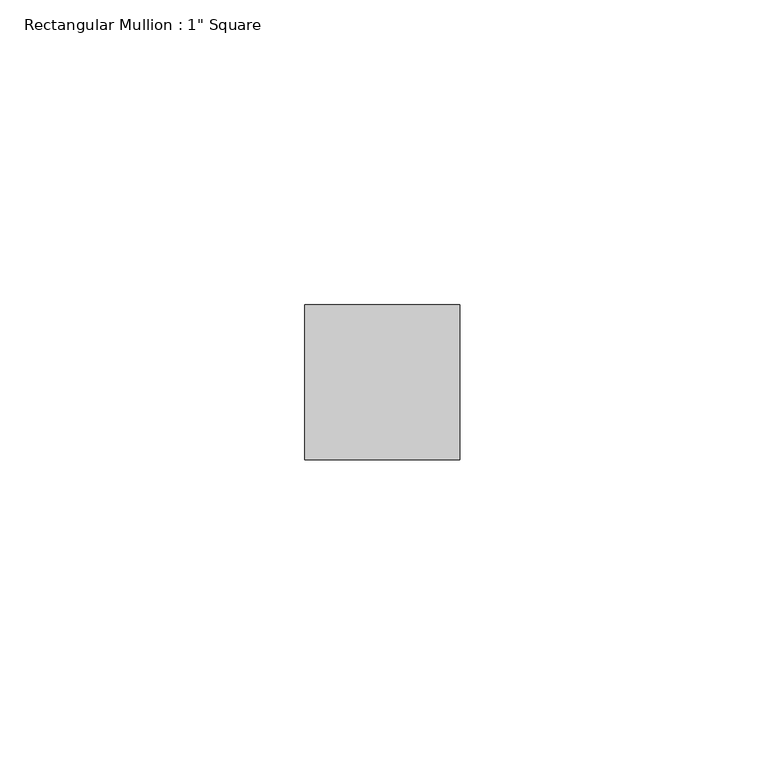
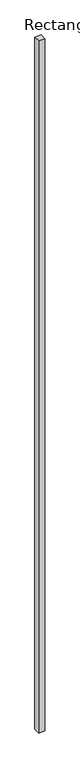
"""IFC4 building model written with IfcOpenShell, lengths in millimetres: member geometry."""

from ifc_helpers import new_model, si_unit, frame, origin, place, context, project, spatial, polyline, outline, extrude, source, transform, mapped, element, save


def member_af50478e(model_context):
    return source(origin(), model_context, "Body", "SweptSolid", [
        extrude(outline(polyline([(12.7, 12.7), (12.7, -12.7), (-12.7, -12.7), (-12.7, 12.7), (12.7, 12.7)])), frame((0.0, 0.0, -2936.4370769), z_axis=(0.0, 0.0, 1.0), x_axis=(1.0, 0.0, 0.0)), (0.0, 0.0, 1.0), 2936.4370769),
    ])


if __name__ == "__main__":
    model = new_model("IFC4")
    model_context = context("Model", 3, world=origin())
    ifc_project = project(units=[si_unit("LENGTHUNIT", "METRE", prefix="MILLI")], contexts=[model_context])
    site = spatial("IfcSite", under=ifc_project)
    building = spatial("IfcBuilding", under=site)
    placement = place(None, origin())
    member_shape = member_af50478e(model_context)
    element("IfcMember", 1, ObjectType="Rectangular Mullion : 1\" Square", at=placement, inside=building, context=model_context, shape_type="MappedRepresentation", body=[
        mapped(member_shape, transform((0.0, 0.0, 0.0), x_axis=(1.0, 0.0, 0.0), y_axis=(0.0, 1.0, 0.0), z_axis=(0.0, 0.0, 1.0))),
    ])
    save(model, "model.ifc")
